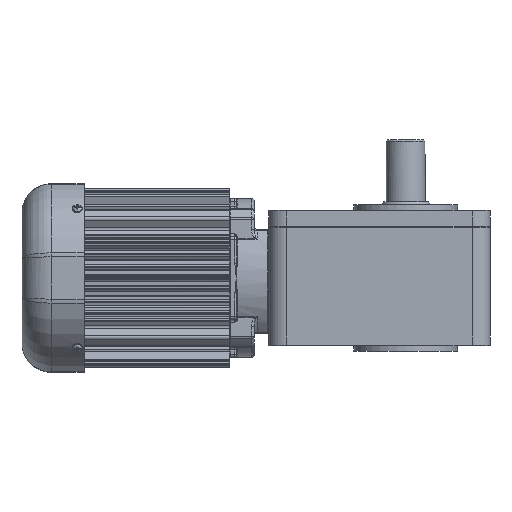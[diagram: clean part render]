
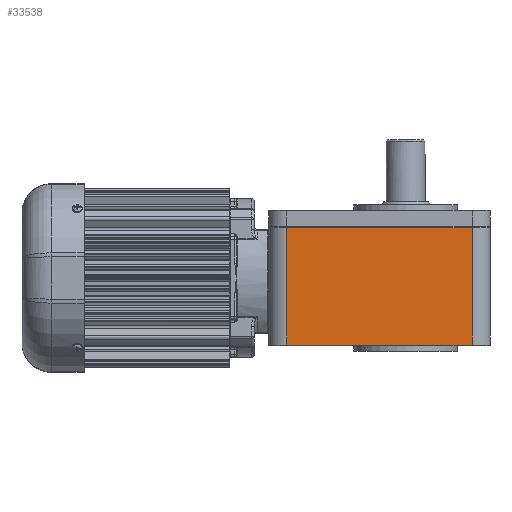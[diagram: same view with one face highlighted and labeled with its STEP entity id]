
A CAD part, front view. The second image highlights one B-rep face of the part: STEP entity #33538.
In plain terms, the highlighted planar face has unit normal (0, -1, 0).
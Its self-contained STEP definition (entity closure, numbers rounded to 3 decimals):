
#1003=PLANE('',#36861);
#2842=FACE_OUTER_BOUND('',#4799,.T.);
#4799=EDGE_LOOP('',(#27338,#27339,#27340,#27341));
#9125=LINE('',#59615,#11502);
#9126=LINE('',#59617,#11503);
#9127=LINE('',#59619,#11504);
#9128=LINE('',#59620,#11505);
#11502=VECTOR('',#45119,134.);
#11503=VECTOR('',#45120,85.);
#11504=VECTOR('',#45121,134.);
#11505=VECTOR('',#45122,85.);
#14756=VERTEX_POINT('',#59613);
#14757=VERTEX_POINT('',#59614);
#14758=VERTEX_POINT('',#59616);
#14759=VERTEX_POINT('',#59618);
#19090=EDGE_CURVE('',#14756,#14757,#9125,.T.);
#19091=EDGE_CURVE('',#14756,#14758,#9126,.T.);
#19092=EDGE_CURVE('',#14759,#14758,#9127,.T.);
#19093=EDGE_CURVE('',#14757,#14759,#9128,.T.);
#27338=ORIENTED_EDGE('',*,*,#19090,.F.);
#27339=ORIENTED_EDGE('',*,*,#19091,.T.);
#27340=ORIENTED_EDGE('',*,*,#19092,.F.);
#27341=ORIENTED_EDGE('',*,*,#19093,.F.);
#33538=ADVANCED_FACE('',(#2842),#1003,.T.);
#36861=AXIS2_PLACEMENT_3D('',#59612,#45117,#45118);
#45117=DIRECTION('center_axis',(0.,-1.,0.));
#45118=DIRECTION('ref_axis',(0.,0.,-1.));
#45119=DIRECTION('',(-1.,0.,0.));
#45120=DIRECTION('',(0.,0.,1.));
#45121=DIRECTION('',(1.,0.,0.));
#45122=DIRECTION('',(0.,0.,1.));
#59612=CARTESIAN_POINT('Origin',(48.,-87.,0.));
#59613=CARTESIAN_POINT('',(48.,-87.,-48.5));
#59614=CARTESIAN_POINT('',(-86.,-87.,-48.5));
#59615=CARTESIAN_POINT('',(48.,-87.,-48.5));
#59616=CARTESIAN_POINT('',(48.,-87.,36.5));
#59617=CARTESIAN_POINT('',(48.,-87.,-48.5));
#59618=CARTESIAN_POINT('',(-86.,-87.,36.5));
#59619=CARTESIAN_POINT('',(-86.,-87.,36.5));
#59620=CARTESIAN_POINT('',(-86.,-87.,-48.5));
